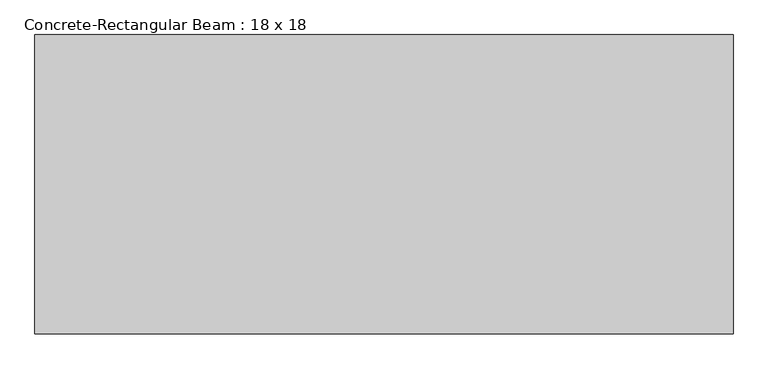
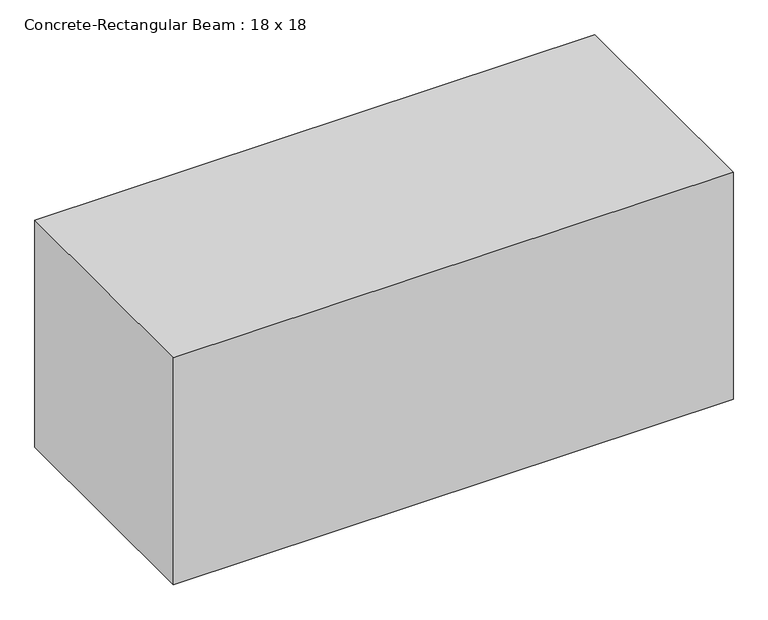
"""IFC4 building model written with IfcOpenShell, lengths in millimetres: beam geometry, Concrete-Rectangular Beam : 18 x 18."""

from ifc_helpers import new_model, si_unit, frame, origin, place, context, project, spatial, polyline, outline, extrude, source, transform, mapped, element, save


def concrete_rectangular_beam_18_x_18_c7730e0d(model_context):
    return source(origin(), model_context, "Body", "SweptSolid", [
        extrude(outline(polyline([(533.4, -228.6), (-533.4, -228.6), (-533.4, 228.6), (533.4, 228.6), (533.4, -228.6)])), frame((0.0, 0.0, -228.6), z_axis=(0.0, 0.0, 1.0), x_axis=(1.0, 0.0, 0.0)), (0.0, 0.0, 1.0), 457.2),
    ])


if __name__ == "__main__":
    model = new_model("IFC4")
    model_context = context("Model", 3, world=origin())
    ifc_project = project(units=[si_unit("LENGTHUNIT", "METRE", prefix="MILLI")], contexts=[model_context])
    site = spatial("IfcSite", under=ifc_project)
    building = spatial("IfcBuilding", under=site)
    placement = place(None, origin())
    concrete_rectangular_beam_18_x_18_shape = concrete_rectangular_beam_18_x_18_c7730e0d(model_context)
    element("IfcBeam", 1, ObjectType="Concrete-Rectangular Beam : 18 x 18", at=placement, inside=building, context=model_context, shape_type="MappedRepresentation", body=[
        mapped(concrete_rectangular_beam_18_x_18_shape, transform((0.0, 0.0, 0.0), x_axis=(1.0, 0.0, 0.0), y_axis=(0.0, 1.0, 0.0), z_axis=(0.0, 0.0, 1.0))),
    ])
    save(model, "model.ifc")
